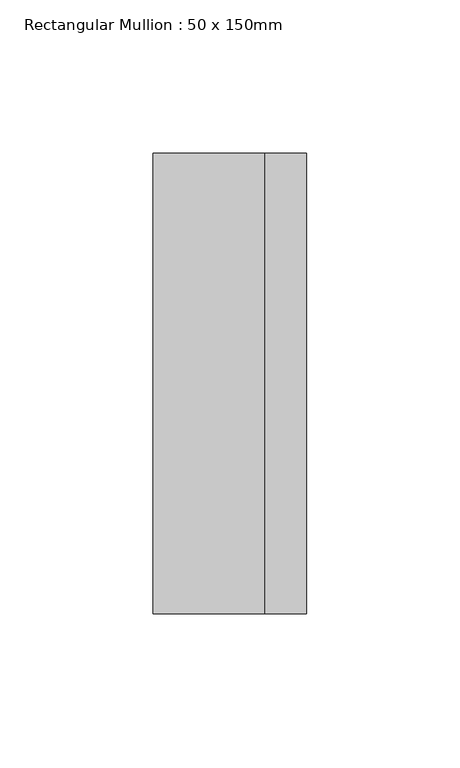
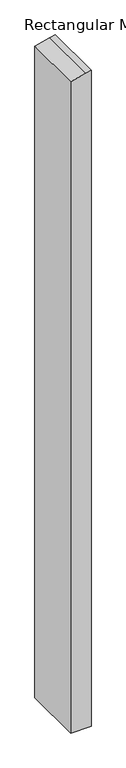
"""IFC4 building model written with IfcOpenShell, lengths in millimetres: member geometry, Rectangular Mullion : 50 x 150mm."""

from ifc_helpers import new_model, si_unit, frame, origin, place, context, project, spatial, polyline, outline, extrude, source, transform, mapped, element, save


def rectangular_mullion_50_x_150mm_1fd65d6a(model_context):
    return source(origin(), model_context, "Body", "SweptSolid", [
        extrude(outline(polyline([(-45.4880193, 25.0), (-48.6748048, 11.4351816), (-57.2345292, -25.0), (-1732.0329537, -25.0), (-1732.0329537, 25.0), (-45.4880193, 25.0)])), frame((0.0, -75.0, 0.0), z_axis=(0.0, 1.0, 0.0), x_axis=(0.0, 0.0, 1.0)), (0.0, 0.0, 1.0), 150.0),
    ])


if __name__ == "__main__":
    model = new_model("IFC4")
    model_context = context("Model", 3, world=origin())
    ifc_project = project(units=[si_unit("LENGTHUNIT", "METRE", prefix="MILLI")], contexts=[model_context])
    site = spatial("IfcSite", under=ifc_project)
    building = spatial("IfcBuilding", under=site)
    placement = place(None, origin())
    rectangular_mullion_50_x_150mm_shape = rectangular_mullion_50_x_150mm_1fd65d6a(model_context)
    element("IfcMember", 1, ObjectType="Rectangular Mullion : 50 x 150mm", at=placement, inside=building, context=model_context, shape_type="MappedRepresentation", body=[
        mapped(rectangular_mullion_50_x_150mm_shape, transform((0.0, 0.0, 0.0), x_axis=(1.0, 0.0, 0.0), y_axis=(0.0, 1.0, 0.0), z_axis=(0.0, 0.0, 1.0))),
    ])
    save(model, "model.ifc")
